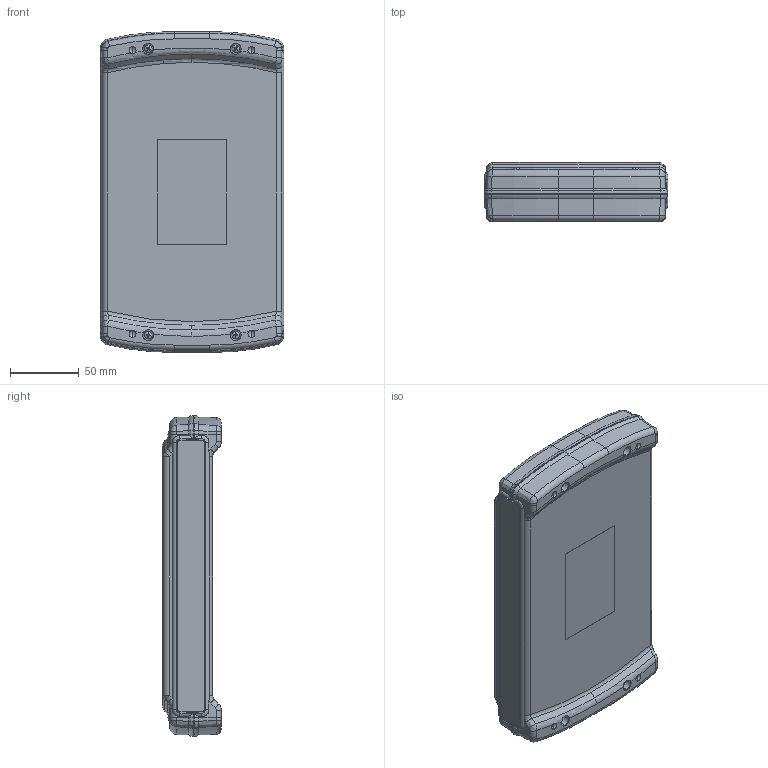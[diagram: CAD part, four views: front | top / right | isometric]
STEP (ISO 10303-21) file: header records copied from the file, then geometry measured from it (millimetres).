
FILE_DESCRIPTION (( 'STEP AP214' ), '1' );
FILE_NAME ('ZN-40MBT_ASS''Y.STEP', '2014-03-27T15:01:16', ( 'doug' ), ( '' ), 'SwSTEP 2.0', 'SolidWorks 2014', '' );
FILE_SCHEMA (( 'AUTOMOTIVE_DESIGN' ));
Length unit declared in the file: inch
Products named in the file (6): ZN-40-PCB; SCREWS-HL5-8-BR_default; ZN-40EP_ZN-40EP; ZN-4XC_ZN-40C-T; ZN-40BMB_ZN-40BMB; ZN-40MBT_ASS''Y
Assembly tree (9 placements, depth 2):
  ZN-40MBT_ASS''Y
    ZN-40BMB_ZN-40BMB
    ZN-4XC_ZN-40C-T
    ZN-40EP_ZN-40EP  x2
    SCREWS-HL5-8-BR_default  x4
    ZN-40-PCB
Bounding box: 133.37 x 42.55 x 233.17 mm (x, y, z)
Volume: 258734.2 mm3; surface area: 236402.5 mm2
Topology: 9 solids, 9 shells, 1350 faces, 3512 edges, 2228 vertices
Faces by surface type: plane 412, cylinder 380, cone 216, bspline 168, torus 142, sphere 32
Entity records: 38078 total; most frequent: CARTESIAN_POINT 14073, ORIENTED_EDGE 5194, DIRECTION 4834, EDGE_CURVE 2597, AXIS2_PLACEMENT_3D 1904, VERTEX_POINT 1621, EDGE_LOOP 1076, VECTOR 1026
